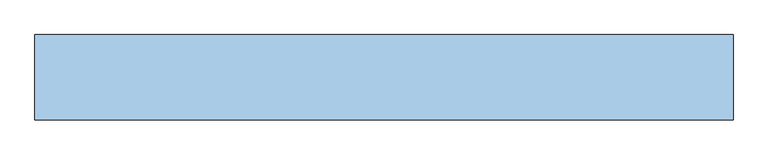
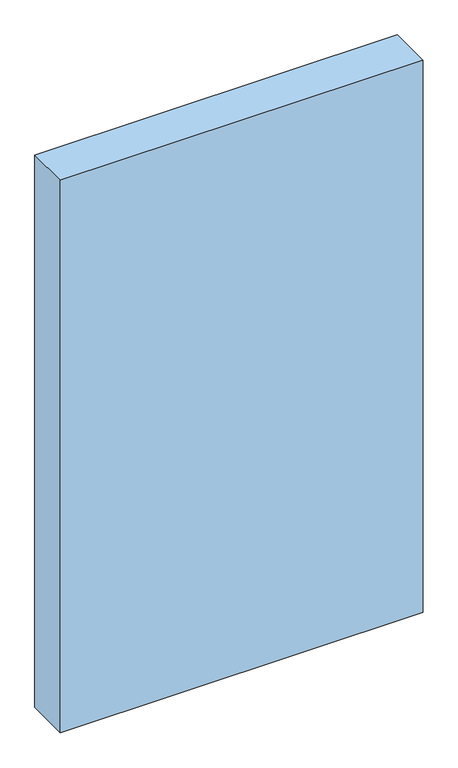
"""IFC4 building model written with IfcOpenShell, lengths in millimetres: window geometry, Dr_Проем-Четверти_об модель : ОК."""

import ifcopenshell
import ifcopenshell.guid

model = None  # the IFC model being written
_history = None  # IfcOwnerHistory: only IFC2X3 demands one
_inside = {}  # id of a spatial element -> (the spatial element, [elements in it])
_under = {}  # id of a project, library or spatial element -> (it, [spatial elements below it])
_declared = {}  # id of a project -> (the project, [libraries it declares])
_typed = {}  # id of a type object -> (the type object, [elements of that type])
_made_of = {}  # id of a material, layer set ... -> (it, [elements and type objects made of it])


def new_model(schema):
    """Start an empty IFC model of exactly this schema.

    Asked for "IFC4X3", IfcOpenShell would pick the latest addendum, in which some entities
    have other attributes; the version numbers below select the first issue.
    IFC2X3 requires an IfcOwnerHistory on every rooted entity: one is made here for all.
    """
    global model, _history
    if schema == "IFC4X3":
        model = ifcopenshell.file(schema_version=(4, 3, 0, 0))
    else:
        model = ifcopenshell.file(schema=schema)
    _inside.clear()
    _under.clear()
    _declared.clear()
    _typed.clear()
    _made_of.clear()
    _history = None
    if model.schema == "IFC2X3":
        org = make("IfcOrganization", Name="unknown")
        user = make(
            "IfcPersonAndOrganization",
            ThePerson=make("IfcPerson", FamilyName="unknown"),
            TheOrganization=org,
        )
        app = make(
            "IfcApplication",
            ApplicationDeveloper=org,
            Version="unknown",
            ApplicationFullName="unknown",
            ApplicationIdentifier="unknown",
        )
        _history = make(
            "IfcOwnerHistory",
            OwningUser=user,
            OwningApplication=app,
            ChangeAction="ADDED",
            CreationDate=0,
        )
    return model


def make(cls, **values):
    """One entity of the class cls with the attributes given. An attribute that is None is left unset."""
    return model.create_entity(
        cls, **{name: value for name, value in values.items() if value is not None}
    )


def rooted(cls, **values):
    """An entity with a GlobalId (a new one), such as an element, a storey or a relation."""
    return make(cls, GlobalId=ifcopenshell.guid.new(), OwnerHistory=_history, **values)


def si_unit(unit_type, name, prefix=None):
    """IfcSIUnit, for example si_unit("LENGTHUNIT", "METRE", prefix="MILLI")."""
    return make("IfcSIUnit", UnitType=unit_type, Prefix=prefix, Name=name)


def assignment(units):
    """IfcUnitAssignment: the units of a project."""
    return None if units is None else make("IfcUnitAssignment", Units=units)


def point(xyz):
    """IfcCartesianPoint."""
    return None if xyz is None else make("IfcCartesianPoint", Coordinates=xyz)


def direction(xyz):
    """IfcDirection."""
    return None if xyz is None else make("IfcDirection", DirectionRatios=xyz)


def frame(location, z_axis=None, x_axis=None):
    """IfcAxis2Placement3D, a coordinate frame: its origin and axes. An axis left out is left unset."""
    return make(
        "IfcAxis2Placement3D",
        Location=point(location),
        Axis=direction(z_axis),
        RefDirection=direction(x_axis),
    )


def origin():
    """The frame at (0, 0, 0) with its axes left unset."""
    return frame((0.0, 0.0, 0.0))


def place(relative_to, where):
    """IfcLocalPlacement: puts the frame where relative to a parent placement (None: the world)."""
    return make(
        "IfcLocalPlacement", PlacementRelTo=relative_to, RelativePlacement=where
    )


def context(
    kind, dimensions, precision=None, world=None, true_north=None, identifier=None
):
    """IfcGeometricRepresentationContext, for example the 3D "Model" context."""
    return make(
        "IfcGeometricRepresentationContext",
        ContextIdentifier=identifier,
        ContextType=kind,
        CoordinateSpaceDimension=dimensions,
        Precision=precision,
        WorldCoordinateSystem=world,
        TrueNorth=true_north,
    )


def project(units=None, contexts=None):
    """IfcProject with its units and contexts."""
    return rooted(
        "IfcProject",
        Name="project",
        RepresentationContexts=contexts,
        UnitsInContext=assignment(units),
    )


def spatial(cls, under=None, at=None, **own):
    """A site, building, storey or space (cls), placed at a placement, below another one or the project."""
    s = rooted(cls, ObjectPlacement=at, **own)
    if under is not None:
        _under.setdefault(under.id(), (under, []))[1].append(s)
    return s


def polyline(points):
    """IfcPolyline through the points."""
    return make("IfcPolyline", Points=[point(p) for p in points])


def outline(outer, holes=None, kind="AREA"):
    """IfcArbitraryClosedProfileDef: a profile drawn as a closed curve; with holes, ...WithVoids."""
    if holes is None:
        return make("IfcArbitraryClosedProfileDef", ProfileType=kind, OuterCurve=outer)
    return make(
        "IfcArbitraryProfileDefWithVoids",
        ProfileType=kind,
        OuterCurve=outer,
        InnerCurves=holes,
    )


def extrude(swept, where, along, depth):
    """IfcExtrudedAreaSolid: the profile swept, set in the frame where, extruded along a direction by depth."""
    return make(
        "IfcExtrudedAreaSolid",
        SweptArea=swept,
        Position=where,
        ExtrudedDirection=direction(along),
        Depth=depth,
    )


def shape(context_of_items, identifier, shape_type, items):
    """IfcShapeRepresentation: the items that make up one representation, for example the "Body"."""
    return make(
        "IfcShapeRepresentation",
        ContextOfItems=context_of_items,
        RepresentationIdentifier=identifier,
        RepresentationType=shape_type,
        Items=items,
    )


def source(mapping_origin, context_of_items, identifier, shape_type, items):
    """IfcRepresentationMap: a shape defined once, which mapped items show again and again."""
    return make(
        "IfcRepresentationMap",
        MappingOrigin=mapping_origin,
        MappedRepresentation=shape(context_of_items, identifier, shape_type, items),
    )


def transform(
    local_origin,
    x_axis=None,
    y_axis=None,
    z_axis=None,
    scale=None,
    scale2=None,
    scale3=None,
    uniform=True,
):
    """IfcCartesianTransformationOperator3D, or its non-uniform kind. x_axis, y_axis, z_axis: its Axis1, 2, 3."""
    if uniform:
        return make(
            "IfcCartesianTransformationOperator3D",
            Axis1=direction(x_axis),
            Axis2=direction(y_axis),
            LocalOrigin=point(local_origin),
            Scale=scale,
            Axis3=direction(z_axis),
        )
    return make(
        "IfcCartesianTransformationOperator3DnonUniform",
        Axis1=direction(x_axis),
        Axis2=direction(y_axis),
        LocalOrigin=point(local_origin),
        Scale=scale,
        Axis3=direction(z_axis),
        Scale2=scale2,
        Scale3=scale3,
    )


def mapped(mapping_source, mapping_target):
    """IfcMappedItem: shows the shape of a source again, moved by a transform."""
    return make(
        "IfcMappedItem", MappingSource=mapping_source, MappingTarget=mapping_target
    )


def made_of(thing, what):
    """Note that an element or type object is made of a material, layer set ...; save() writes the relation."""
    if what is not None:
        _made_of.setdefault(what.id(), (what, []))[1].append(thing)
    return thing


def element(
    cls,
    number,
    at=None,
    inside=None,
    cuts=None,
    type_object=None,
    material=None,
    context=None,
    identifier="Body",
    shape_type=None,
    held_by="IfcProductDefinitionShape",
    body=None,
    shapes=None,
    **own,
):
    """One element of the class cls, such as IfcWall. Its Tag is "e" and its number.

    at: its placement. inside: the storey or other place that contains it. cuts: it is an
    opening in that element (IfcRelVoidsElement). A single representation is given by context,
    identifier, shape_type and body (its items); several are given by shapes. held_by: the class
    of the entity that holds the representations. save() writes the other relations.
    """
    e = rooted(cls, Tag="e%d" % number, ObjectPlacement=at, **own)
    if body is not None:
        shapes = [shape(context, identifier, shape_type, body)]
    if shapes is not None:
        e.Representation = make(held_by, Representations=shapes)
    if inside is not None:
        _inside.setdefault(inside.id(), (inside, []))[1].append(e)
    if cuts is not None:
        rooted(
            "IfcRelVoidsElement", RelatingBuildingElement=cuts, RelatedOpeningElement=e
        )
    if type_object is not None:
        _typed.setdefault(type_object.id(), (type_object, []))[1].append(e)
    return made_of(e, material)


def aggregate(whole, parts):
    """IfcRelAggregates: a whole, such as a stair, and the parts it consists of."""
    return rooted("IfcRelAggregates", RelatingObject=whole, RelatedObjects=parts)


def save(model, path):
    """Write the relations noted so far, then the file.

    IfcRelAggregates (storeys below a building ...), IfcRelContainedInSpatialStructure (elements
    in a storey), IfcRelDefinesByType, IfcRelAssociatesMaterial and IfcRelDeclares: one each for
    every whole, place, type object, material and project.
    """
    for whole, parts in _under.values():
        aggregate(whole, parts)
    for where, things in _inside.values():
        rooted(
            "IfcRelContainedInSpatialStructure",
            RelatedElements=things,
            RelatingStructure=where,
        )
    for kind, things in _typed.values():
        rooted("IfcRelDefinesByType", RelatedObjects=things, RelatingType=kind)
    for what, things in _made_of.values():
        rooted("IfcRelAssociatesMaterial", RelatedObjects=things, RelatingMaterial=what)
    for by, libraries in _declared.values():
        rooted("IfcRelDeclares", RelatingContext=by, RelatedDefinitions=libraries)
    model.write(path)


def window_104e5272(model_context):
    return source(origin(), model_context, "Body", "SweptSolid", [
        extrude(outline(polyline([(955.0, 100.0), (955.0, -100.0), (-685.0, -100.0), (-685.0, 100.0), (955.0, 100.0)])), frame((0.0, 0.0, -70.0), z_axis=(0.0, 0.0, 1.0), x_axis=(1.0, 0.0, 0.0)), (0.0, 0.0, 1.0), 2640.0),
    ])


if __name__ == "__main__":
    model = new_model("IFC4")
    model_context = context("Model", 3, world=origin())
    ifc_project = project(units=[si_unit("LENGTHUNIT", "METRE", prefix="MILLI")], contexts=[model_context])
    site = spatial("IfcSite", under=ifc_project)
    building = spatial("IfcBuilding", under=site)
    placement = place(None, origin())
    window_shape = window_104e5272(model_context)
    element("IfcWindow", 1, ObjectType="Dr_Проем-Четверти_об модель : ОК", at=placement, inside=building, context=model_context, shape_type="MappedRepresentation", body=[
        mapped(window_shape, transform((0.0, 0.0, 0.0), x_axis=(1.0, 0.0, 0.0), y_axis=(0.0, 1.0, 0.0), z_axis=(0.0, 0.0, 1.0))),
    ])
    save(model, "model.ifc")
